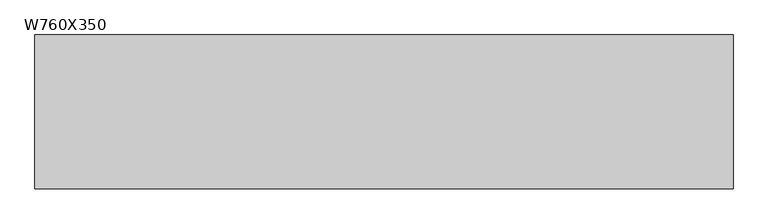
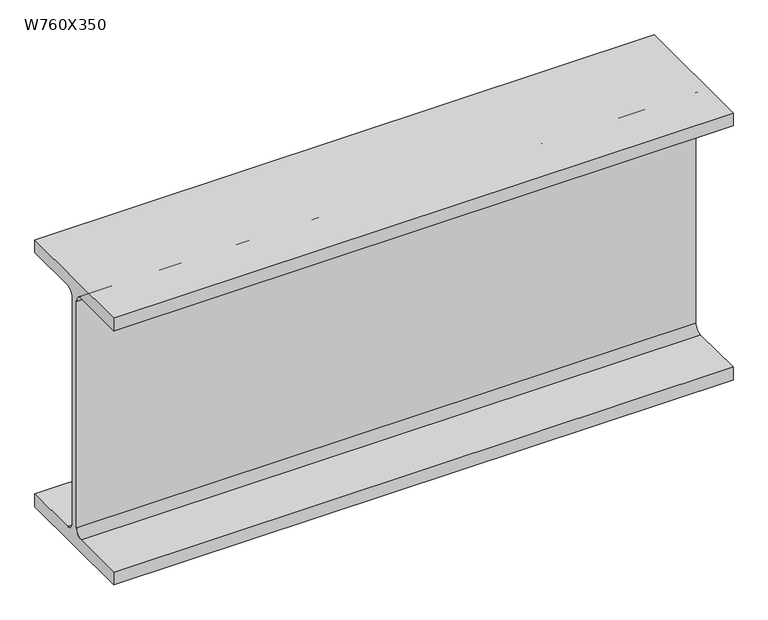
"""IFC4 building model written with IfcOpenShell, lengths in millimetres: beam geometry, M_W-Wide Flange : W760X350."""

from ifc_helpers import new_model, si_unit, point, frame, frame_2d, origin, place, context, project, spatial, polyline, circle_curve, trimmed, segment, composite_curve, outline, extrude, source, transform, mapped, element, save


def w760x350_12c19f72(model_context):
    return source(origin(), model_context, "Body", "SweptSolid", [
        extrude(outline(composite_curve([segment(polyline([(192.0, -359.4), (192.0, -397.5), (-192.0, -397.5), (-192.0, -359.4), (-32.75, -359.4)]), True, "CONTINUOUS"), segment(trimmed(circle_curve(frame_2d((-32.75, -337.2)), 22.2), [point((-32.75, -359.4))], [point((-10.55, -337.2))], True, "CARTESIAN"), True, "CONTINUOUS"), segment(polyline([(-10.55, -337.2), (-10.55, 337.2)]), True, "CONTINUOUS"), segment(trimmed(circle_curve(frame_2d((-32.75, 337.2)), 22.2), [point((-10.55, 337.2))], [point((-32.75, 359.4))], True, "CARTESIAN"), True, "CONTINUOUS"), segment(polyline([(-32.75, 359.4), (-192.0, 359.4), (-192.0, 397.5), (192.0, 397.5), (192.0, 359.4), (32.75, 359.4)]), True, "CONTINUOUS"), segment(trimmed(circle_curve(frame_2d((32.75, 337.2)), 22.2), [point((32.75, 359.4))], [point((10.55, 337.2))], True, "CARTESIAN"), True, "CONTINUOUS"), segment(polyline([(10.55, 337.2), (10.55, -337.2)]), True, "CONTINUOUS"), segment(trimmed(circle_curve(frame_2d((32.75, -337.2)), 22.2), [point((10.55, -337.2))], [point((32.75, -359.4))], True, "CARTESIAN"), True, "CONTINUOUS"), segment(polyline([(32.75, -359.4), (192.0, -359.4)]), True, "CONTINUOUS")], self_intersect=False)), frame((-766.1497938, 0.0, 0.0), z_axis=(1.0, 0.0, 0.0), x_axis=(0.0, 1.0, 0.0)), (0.0, 0.0, 1.0), 1743.6254829),
    ])


if __name__ == "__main__":
    model = new_model("IFC4")
    model_context = context("Model", 3, world=origin())
    ifc_project = project(units=[si_unit("LENGTHUNIT", "METRE", prefix="MILLI")], contexts=[model_context])
    site = spatial("IfcSite", under=ifc_project)
    building = spatial("IfcBuilding", under=site)
    placement = place(None, origin())
    w760x350_shape = w760x350_12c19f72(model_context)
    element("IfcBeam", 1, ObjectType="M_W-Wide Flange : W760X350", at=placement, inside=building, context=model_context, shape_type="MappedRepresentation", body=[
        mapped(w760x350_shape, transform((0.0, 0.0, 0.0), x_axis=(1.0, 0.0, 0.0), y_axis=(0.0, 1.0, 0.0), z_axis=(0.0, 0.0, 1.0))),
    ])
    save(model, "model.ifc")
